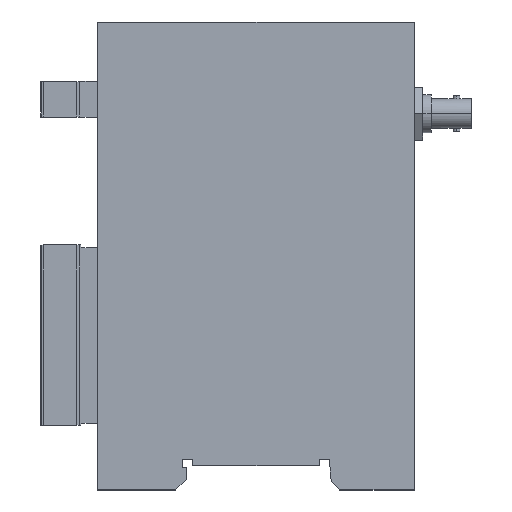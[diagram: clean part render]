
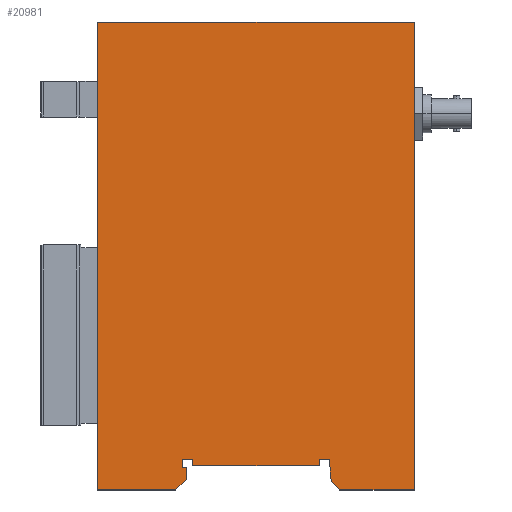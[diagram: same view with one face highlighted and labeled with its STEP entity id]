
A CAD part, top view. The second image highlights one B-rep face of the part: STEP entity #20981.
In plain terms, the highlighted planar face has unit normal (0, 0, 1).
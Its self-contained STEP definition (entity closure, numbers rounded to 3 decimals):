
#74 = VERTEX_POINT ( 'NONE', #2511 ) ;
#243 = VERTEX_POINT ( 'NONE', #6410 ) ;
#427 = EDGE_CURVE ( 'NONE', #17645, #74, #9794, .T. ) ;
#629 = ORIENTED_EDGE ( 'NONE', *, *, #7171, .T. ) ;
#631 = DIRECTION ( 'NONE',  ( 0., -1., 0. ) ) ;
#773 = DIRECTION ( 'NONE',  ( 1., 0., 0. ) ) ;
#925 = CARTESIAN_POINT ( 'NONE',  ( 22.5, 5.7, 19. ) ) ;
#1141 = CARTESIAN_POINT ( 'NONE',  ( 57.324, 0., 19. ) ) ;
#1217 = DIRECTION ( 'NONE',  ( 0.707, -0.707, 0. ) ) ;
#1233 = CARTESIAN_POINT ( 'NONE',  ( 0., 0., 19. ) ) ;
#1451 = VECTOR ( 'NONE', #22781, 1000. ) ;
#1779 = CARTESIAN_POINT ( 'NONE',  ( 21., 2.5, 19. ) ) ;
#1790 = CARTESIAN_POINT ( 'NONE',  ( 0., 0., 19. ) ) ;
#2028 = LINE ( 'NONE', #12967, #10004 ) ;
#2150 = VERTEX_POINT ( 'NONE', #12595 ) ;
#2317 = CARTESIAN_POINT ( 'NONE',  ( 75., 0., 19. ) ) ;
#2451 = EDGE_CURVE ( 'NONE', #14845, #13329, #7499, .T. ) ;
#2511 = CARTESIAN_POINT ( 'NONE',  ( 55., 7.2, 19. ) ) ;
#2580 = VECTOR ( 'NONE', #11190, 1000. ) ;
#2683 = LINE ( 'NONE', #21696, #7039 ) ;
#2868 = DIRECTION ( 'NONE',  ( 0., 1., 0. ) ) ;
#2885 = LINE ( 'NONE', #1779, #20987 ) ;
#2984 = CARTESIAN_POINT ( 'NONE',  ( 55.324, 2., 19. ) ) ;
#3107 = LINE ( 'NONE', #22141, #16837 ) ;
#3175 = CARTESIAN_POINT ( 'NONE',  ( 21., 5.2, 19. ) ) ;
#3228 = VERTEX_POINT ( 'NONE', #6232 ) ;
#3324 = ORIENTED_EDGE ( 'NONE', *, *, #10348, .T. ) ;
#3567 = DIRECTION ( 'NONE',  ( 1., 0., 0. ) ) ;
#3654 = VECTOR ( 'NONE', #1217, 1000. ) ;
#3738 = EDGE_CURVE ( 'NONE', #12156, #17645, #21695, .T. ) ;
#4069 = ORIENTED_EDGE ( 'NONE', *, *, #10501, .T. ) ;
#4246 = DIRECTION ( 'NONE',  ( 1., 0., 0. ) ) ;
#4507 = LINE ( 'NONE', #8159, #3654 ) ;
#4939 = VECTOR ( 'NONE', #13465, 1000. ) ;
#5047 = CARTESIAN_POINT ( 'NONE',  ( 22.5, 7.2, 19. ) ) ;
#5131 = EDGE_CURVE ( 'NONE', #74, #21492, #19454, .T. ) ;
#5167 = CARTESIAN_POINT ( 'NONE',  ( 55., 7.2, 19. ) ) ;
#5482 = LINE ( 'NONE', #925, #11271 ) ;
#5717 = DIRECTION ( 'NONE',  ( 0.707, 0.707, 0. ) ) ;
#6232 = CARTESIAN_POINT ( 'NONE',  ( 21., 2.5, 19. ) ) ;
#6394 = ORIENTED_EDGE ( 'NONE', *, *, #9151, .T. ) ;
#6410 = CARTESIAN_POINT ( 'NONE',  ( 22.5, 7.2, 19. ) ) ;
#6485 = CARTESIAN_POINT ( 'NONE',  ( 52.5, 5.7, 19. ) ) ;
#6662 = DIRECTION ( 'NONE',  ( 1., 0., 0. ) ) ;
#6791 = ORIENTED_EDGE ( 'NONE', *, *, #5131, .T. ) ;
#6920 = DIRECTION ( 'NONE',  ( 1., 0., 0. ) ) ;
#6935 = EDGE_CURVE ( 'NONE', #14885, #3228, #2028, .T. ) ;
#7039 = VECTOR ( 'NONE', #4246, 1000. ) ;
#7171 = EDGE_CURVE ( 'NONE', #21637, #12070, #22631, .T. ) ;
#7248 = EDGE_CURVE ( 'NONE', #9994, #243, #9735, .T. ) ;
#7323 = CARTESIAN_POINT ( 'NONE',  ( 0., 110.8, 19. ) ) ;
#7499 = LINE ( 'NONE', #17548, #1451 ) ;
#7916 = EDGE_CURVE ( 'NONE', #3228, #14845, #2885, .T. ) ;
#7942 = DIRECTION ( 'NONE',  ( -1., 0., 0. ) ) ;
#8159 = CARTESIAN_POINT ( 'NONE',  ( 55.324, 2., 19. ) ) ;
#8387 = VERTEX_POINT ( 'NONE', #13883 ) ;
#8601 = EDGE_CURVE ( 'NONE', #243, #8387, #16621, .T. ) ;
#8742 = EDGE_CURVE ( 'NONE', #18113, #8760, #4507, .T. ) ;
#8760 = VERTEX_POINT ( 'NONE', #1141 ) ;
#9151 = EDGE_CURVE ( 'NONE', #13329, #9994, #3107, .T. ) ;
#9735 = LINE ( 'NONE', #5047, #14938 ) ;
#9794 = LINE ( 'NONE', #5167, #16387 ) ;
#9994 = VERTEX_POINT ( 'NONE', #20584 ) ;
#10004 = VECTOR ( 'NONE', #5717, 1000. ) ;
#10079 = CARTESIAN_POINT ( 'NONE',  ( 52.5, 7.2, 19. ) ) ;
#10122 = DIRECTION ( 'NONE',  ( 0., -1., 0. ) ) ;
#10158 = LINE ( 'NONE', #2317, #14561 ) ;
#10348 = EDGE_CURVE ( 'NONE', #8387, #12156, #5482, .T. ) ;
#10501 = EDGE_CURVE ( 'NONE', #21492, #18113, #16755, .T. ) ;
#10699 = CARTESIAN_POINT ( 'NONE',  ( 18.5, 0., 19. ) ) ;
#10731 = EDGE_LOOP ( 'NONE', ( #12643, #20890, #21499, #10775, #13688, #6394, #19753, #10938, #3324, #14156, #16014, #6791, #4069, #18410, #21614, #16550, #629 ) ) ;
#10775 = ORIENTED_EDGE ( 'NONE', *, *, #7916, .T. ) ;
#10938 = ORIENTED_EDGE ( 'NONE', *, *, #8601, .T. ) ;
#11190 = DIRECTION ( 'NONE',  ( -1., 0., 0. ) ) ;
#11271 = VECTOR ( 'NONE', #773, 1000. ) ;
#11309 = DIRECTION ( 'NONE',  ( 0., 1., 0. ) ) ;
#12070 = VERTEX_POINT ( 'NONE', #7323 ) ;
#12084 = DIRECTION ( 'NONE',  ( 0.087, -0.996, 0. ) ) ;
#12156 = VERTEX_POINT ( 'NONE', #6485 ) ;
#12595 = CARTESIAN_POINT ( 'NONE',  ( 0., 0., 19. ) ) ;
#12643 = ORIENTED_EDGE ( 'NONE', *, *, #21647, .T. ) ;
#12967 = CARTESIAN_POINT ( 'NONE',  ( 18.5, 0., 19. ) ) ;
#13162 = CARTESIAN_POINT ( 'NONE',  ( 0., 110.8, 19. ) ) ;
#13329 = VERTEX_POINT ( 'NONE', #14443 ) ;
#13465 = DIRECTION ( 'NONE',  ( 0., 1., 0. ) ) ;
#13490 = DIRECTION ( 'NONE',  ( 0., 0., -1. ) ) ;
#13688 = ORIENTED_EDGE ( 'NONE', *, *, #2451, .T. ) ;
#13848 = DIRECTION ( 'NONE',  ( 0., -1., 0. ) ) ;
#13883 = CARTESIAN_POINT ( 'NONE',  ( 22.5, 5.7, 19. ) ) ;
#14156 = ORIENTED_EDGE ( 'NONE', *, *, #3738, .T. ) ;
#14443 = CARTESIAN_POINT ( 'NONE',  ( 20., 5.2, 19. ) ) ;
#14561 = VECTOR ( 'NONE', #11309, 1000. ) ;
#14845 = VERTEX_POINT ( 'NONE', #3175 ) ;
#14885 = VERTEX_POINT ( 'NONE', #10699 ) ;
#14938 = VECTOR ( 'NONE', #6662, 1000. ) ;
#15044 = CARTESIAN_POINT ( 'NONE',  ( 52.5, 7.2, 19. ) ) ;
#15123 = CARTESIAN_POINT ( 'NONE',  ( 75., 0., 19. ) ) ;
#15401 = CARTESIAN_POINT ( 'NONE',  ( 55., 5.7, 19. ) ) ;
#16014 = ORIENTED_EDGE ( 'NONE', *, *, #427, .T. ) ;
#16186 = VECTOR ( 'NONE', #12084, 1000. ) ;
#16387 = VECTOR ( 'NONE', #6920, 1000. ) ;
#16550 = ORIENTED_EDGE ( 'NONE', *, *, #19970, .T. ) ;
#16621 = LINE ( 'NONE', #16743, #17704 ) ;
#16743 = CARTESIAN_POINT ( 'NONE',  ( 22.5, 5.7, 19. ) ) ;
#16755 = LINE ( 'NONE', #17484, #16186 ) ;
#16837 = VECTOR ( 'NONE', #2868, 1000. ) ;
#17020 = EDGE_CURVE ( 'NONE', #8760, #21946, #2683, .T. ) ;
#17484 = CARTESIAN_POINT ( 'NONE',  ( 55., 5.7, 19. ) ) ;
#17548 = CARTESIAN_POINT ( 'NONE',  ( 20., 5.2, 19. ) ) ;
#17645 = VERTEX_POINT ( 'NONE', #10079 ) ;
#17704 = VECTOR ( 'NONE', #631, 1000. ) ;
#18113 = VERTEX_POINT ( 'NONE', #2984 ) ;
#18179 = LINE ( 'NONE', #1790, #19261 ) ;
#18410 = ORIENTED_EDGE ( 'NONE', *, *, #8742, .T. ) ;
#18577 = FACE_OUTER_BOUND ( 'NONE', #10731, .T. ) ;
#19253 = EDGE_CURVE ( 'NONE', #2150, #14885, #18179, .T. ) ;
#19261 = VECTOR ( 'NONE', #3567, 1000. ) ;
#19374 = DIRECTION ( 'NONE',  ( 0., 1., 0. ) ) ;
#19454 = LINE ( 'NONE', #15401, #20564 ) ;
#19753 = ORIENTED_EDGE ( 'NONE', *, *, #7248, .T. ) ;
#19970 = EDGE_CURVE ( 'NONE', #21946, #21637, #10158, .T. ) ;
#20107 = CARTESIAN_POINT ( 'NONE',  ( 55., 5.7, 19. ) ) ;
#20349 = PLANE ( 'NONE',  #22760 ) ;
#20564 = VECTOR ( 'NONE', #10122, 1000. ) ;
#20584 = CARTESIAN_POINT ( 'NONE',  ( 20., 7.2, 19. ) ) ;
#20768 = CARTESIAN_POINT ( 'NONE',  ( 0., 0., 19. ) ) ;
#20890 = ORIENTED_EDGE ( 'NONE', *, *, #19253, .T. ) ;
#20981 = ADVANCED_FACE ( 'NONE', ( #18577 ), #20349, .F. ) ;
#20987 = VECTOR ( 'NONE', #19374, 1000. ) ;
#21226 = VECTOR ( 'NONE', #13848, 1000. ) ;
#21492 = VERTEX_POINT ( 'NONE', #20107 ) ;
#21499 = ORIENTED_EDGE ( 'NONE', *, *, #6935, .T. ) ;
#21614 = ORIENTED_EDGE ( 'NONE', *, *, #17020, .T. ) ;
#21637 = VERTEX_POINT ( 'NONE', #22641 ) ;
#21647 = EDGE_CURVE ( 'NONE', #12070, #2150, #22068, .T. ) ;
#21695 = LINE ( 'NONE', #15044, #4939 ) ;
#21696 = CARTESIAN_POINT ( 'NONE',  ( 57.324, 0., 19. ) ) ;
#21946 = VERTEX_POINT ( 'NONE', #15123 ) ;
#22068 = LINE ( 'NONE', #20768, #21226 ) ;
#22141 = CARTESIAN_POINT ( 'NONE',  ( 20., 7.2, 19. ) ) ;
#22631 = LINE ( 'NONE', #13162, #2580 ) ;
#22641 = CARTESIAN_POINT ( 'NONE',  ( 75., 110.8, 19. ) ) ;
#22760 = AXIS2_PLACEMENT_3D ( 'NONE', #1233, #13490, #7942 ) ;
#22781 = DIRECTION ( 'NONE',  ( -1., 0., 0. ) ) ;
